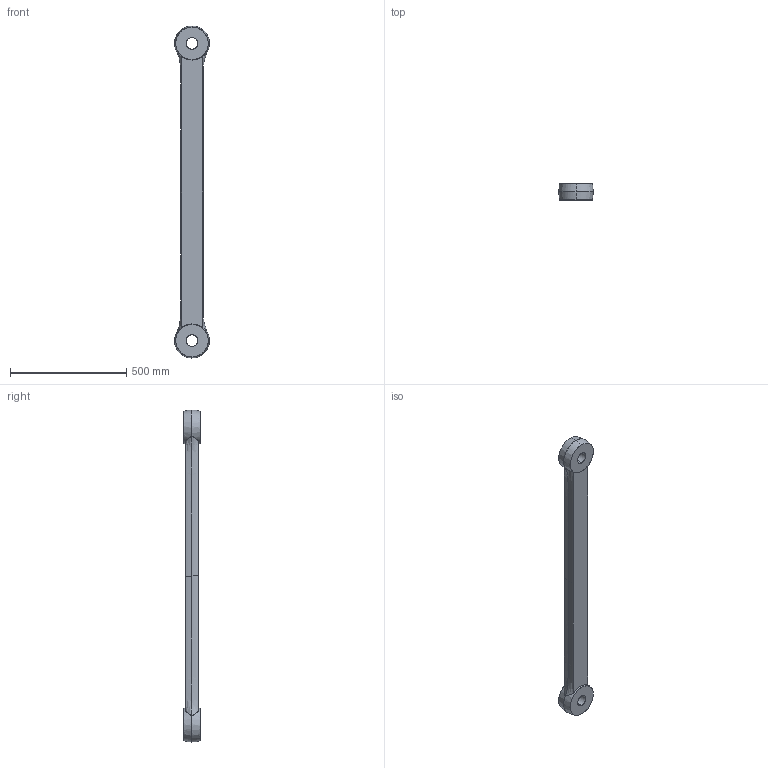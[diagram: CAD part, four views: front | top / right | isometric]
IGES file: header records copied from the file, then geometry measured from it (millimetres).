
Start section: SolidWorks IGES file using analytic representation for surfaces
Global section: file name: C:\Data\Lättmodeller\Nytt\660\IRB660_180-315_IRC5_rev03\IRB660_180-315_IRC5_rev03_IRC5_IGES_j\IRB660_180-315_LINKROD_CAD_rev02.IGS; native system: SolidWorks 2014; preprocessor: SolidWorks 2014; author: seadbov; date: 161202.130139; units: millimetre
Bounding box: 149.94 x 70 x 1430 mm (x, y, z)
Surface area: 460674.2 mm2 (no closed solid volume)
Topology: 0 solids, 0 shells, 26 faces, 772 edges, 772 vertices
Faces by surface type: bspline 22, revolution 4
